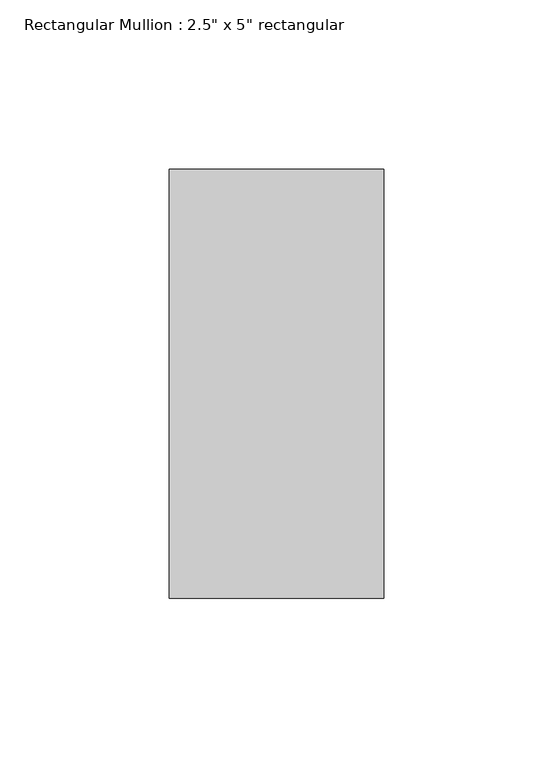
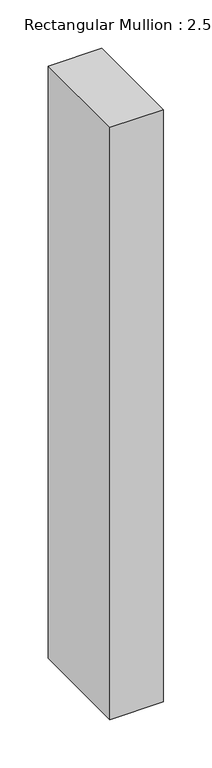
"""IFC4 building model written with IfcOpenShell, lengths in millimetres: member geometry."""

from ifc_helpers import new_model, si_unit, frame, origin, place, context, project, spatial, polyline, outline, extrude, source, transform, mapped, element, save


def member_b540e27d(model_context):
    return source(origin(), model_context, "Body", "SweptSolid", [
        extrude(outline(polyline([(0.0, 63.5), (0.0, -63.5), (-63.5, -63.5), (-63.5, 63.5), (0.0, 63.5)])), frame((0.0, 0.0, -746.125), z_axis=(0.0, 0.0, 1.0), x_axis=(1.0, 0.0, 0.0)), (0.0, 0.0, 1.0), 746.125),
    ])


if __name__ == "__main__":
    model = new_model("IFC4")
    model_context = context("Model", 3, world=origin())
    ifc_project = project(units=[si_unit("LENGTHUNIT", "METRE", prefix="MILLI")], contexts=[model_context])
    site = spatial("IfcSite", under=ifc_project)
    building = spatial("IfcBuilding", under=site)
    placement = place(None, origin())
    member_shape = member_b540e27d(model_context)
    element("IfcMember", 1, ObjectType="Rectangular Mullion : 2.5\" x 5\" rectangular", at=placement, inside=building, context=model_context, shape_type="MappedRepresentation", body=[
        mapped(member_shape, transform((0.0, 0.0, 0.0), x_axis=(1.0, 0.0, 0.0), y_axis=(0.0, 1.0, 0.0), z_axis=(0.0, 0.0, 1.0))),
    ])
    save(model, "model.ifc")
